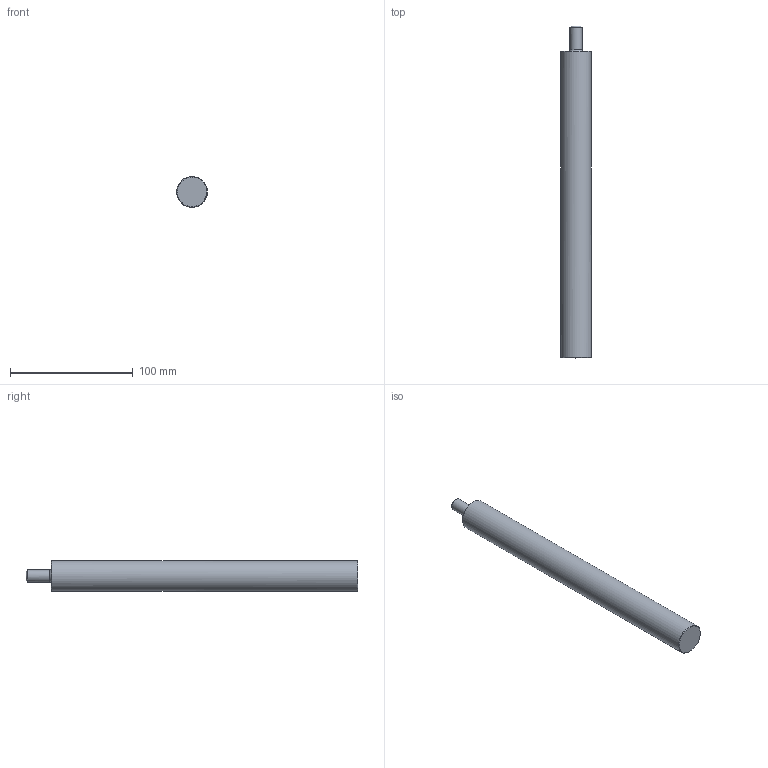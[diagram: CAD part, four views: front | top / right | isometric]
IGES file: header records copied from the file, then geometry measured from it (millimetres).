
Global section: file name: BM01-25D-250L; native system: unknown; preprocessor: unknown; author: unknown; organization: unknown; date: 20231024.134850; units: millimetre
Bounding box: 25 x 270.5 x 24.98 mm (x, y, z)
Volume: 124444 mm3; surface area: 21206.5 mm2
Topology: 1 solids, 1 shells, 9 faces, 16 edges, 10 vertices
Faces by surface type: bspline 9
